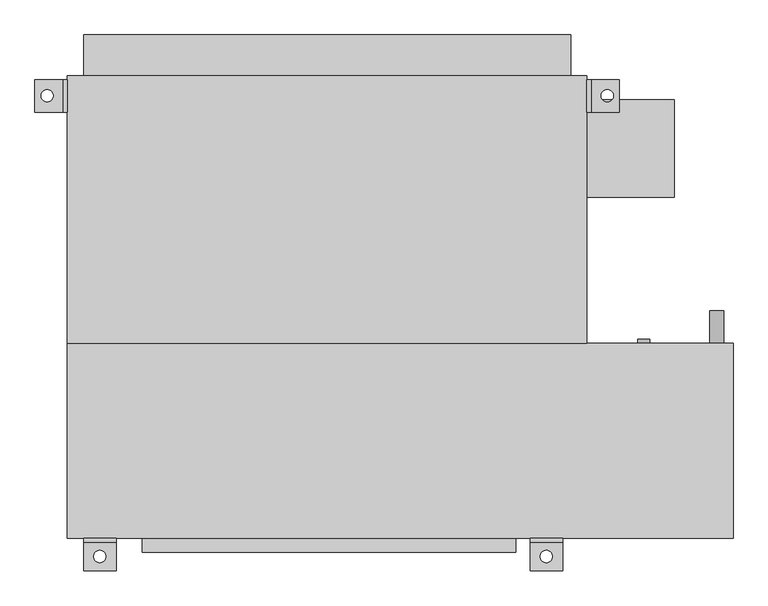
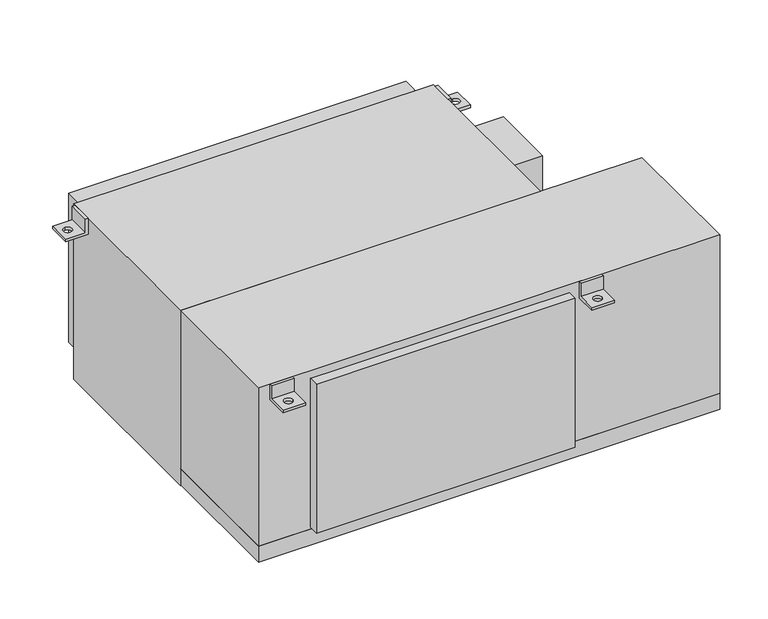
"""IFC4 building model written with IfcOpenShell, lengths in millimetres: proxy geometry, Concealed_High_Capacity_Horizontal_Fan_Coil_Unit_With_Plenum_-_42DCA_-_CARRIER_-_2-Pipe_Cool-EHeat_ValveEnclosure_RH_2022 : Size 10 - 277v/60Hz/1Ph - 6 Row 7.0kW."""

import ifcopenshell
import ifcopenshell.guid

model = None  # the IFC model being written
_history = None  # IfcOwnerHistory: only IFC2X3 demands one
_inside = {}  # id of a spatial element -> (the spatial element, [elements in it])
_under = {}  # id of a project, library or spatial element -> (it, [spatial elements below it])
_declared = {}  # id of a project -> (the project, [libraries it declares])
_typed = {}  # id of a type object -> (the type object, [elements of that type])
_made_of = {}  # id of a material, layer set ... -> (it, [elements and type objects made of it])


def new_model(schema):
    """Start an empty IFC model of exactly this schema.

    Asked for "IFC4X3", IfcOpenShell would pick the latest addendum, in which some entities
    have other attributes; the version numbers below select the first issue.
    IFC2X3 requires an IfcOwnerHistory on every rooted entity: one is made here for all.
    """
    global model, _history
    if schema == "IFC4X3":
        model = ifcopenshell.file(schema_version=(4, 3, 0, 0))
    else:
        model = ifcopenshell.file(schema=schema)
    _inside.clear()
    _under.clear()
    _declared.clear()
    _typed.clear()
    _made_of.clear()
    _history = None
    if model.schema == "IFC2X3":
        org = make("IfcOrganization", Name="unknown")
        user = make(
            "IfcPersonAndOrganization",
            ThePerson=make("IfcPerson", FamilyName="unknown"),
            TheOrganization=org,
        )
        app = make(
            "IfcApplication",
            ApplicationDeveloper=org,
            Version="unknown",
            ApplicationFullName="unknown",
            ApplicationIdentifier="unknown",
        )
        _history = make(
            "IfcOwnerHistory",
            OwningUser=user,
            OwningApplication=app,
            ChangeAction="ADDED",
            CreationDate=0,
        )
    return model


def make(cls, **values):
    """One entity of the class cls with the attributes given. An attribute that is None is left unset."""
    return model.create_entity(
        cls, **{name: value for name, value in values.items() if value is not None}
    )


def rooted(cls, **values):
    """An entity with a GlobalId (a new one), such as an element, a storey or a relation."""
    return make(cls, GlobalId=ifcopenshell.guid.new(), OwnerHistory=_history, **values)


def si_unit(unit_type, name, prefix=None):
    """IfcSIUnit, for example si_unit("LENGTHUNIT", "METRE", prefix="MILLI")."""
    return make("IfcSIUnit", UnitType=unit_type, Prefix=prefix, Name=name)


def assignment(units):
    """IfcUnitAssignment: the units of a project."""
    return None if units is None else make("IfcUnitAssignment", Units=units)


def point(xyz):
    """IfcCartesianPoint."""
    return None if xyz is None else make("IfcCartesianPoint", Coordinates=xyz)


def direction(xyz):
    """IfcDirection."""
    return None if xyz is None else make("IfcDirection", DirectionRatios=xyz)


def frame(location, z_axis=None, x_axis=None):
    """IfcAxis2Placement3D, a coordinate frame: its origin and axes. An axis left out is left unset."""
    return make(
        "IfcAxis2Placement3D",
        Location=point(location),
        Axis=direction(z_axis),
        RefDirection=direction(x_axis),
    )


def frame_2d(location, x_axis=None):
    """IfcAxis2Placement2D, a coordinate frame in the plane: its origin and x axis."""
    return make(
        "IfcAxis2Placement2D", Location=point(location), RefDirection=direction(x_axis)
    )


def origin():
    """The frame at (0, 0, 0) with its axes left unset."""
    return frame((0.0, 0.0, 0.0))


def place(relative_to, where):
    """IfcLocalPlacement: puts the frame where relative to a parent placement (None: the world)."""
    return make(
        "IfcLocalPlacement", PlacementRelTo=relative_to, RelativePlacement=where
    )


def context(
    kind, dimensions, precision=None, world=None, true_north=None, identifier=None
):
    """IfcGeometricRepresentationContext, for example the 3D "Model" context."""
    return make(
        "IfcGeometricRepresentationContext",
        ContextIdentifier=identifier,
        ContextType=kind,
        CoordinateSpaceDimension=dimensions,
        Precision=precision,
        WorldCoordinateSystem=world,
        TrueNorth=true_north,
    )


def project(units=None, contexts=None):
    """IfcProject with its units and contexts."""
    return rooted(
        "IfcProject",
        Name="project",
        RepresentationContexts=contexts,
        UnitsInContext=assignment(units),
    )


def spatial(cls, under=None, at=None, **own):
    """A site, building, storey or space (cls), placed at a placement, below another one or the project."""
    s = rooted(cls, ObjectPlacement=at, **own)
    if under is not None:
        _under.setdefault(under.id(), (under, []))[1].append(s)
    return s


def polyline(points):
    """IfcPolyline through the points."""
    return make("IfcPolyline", Points=[point(p) for p in points])


def circle_curve(where, radius):
    """IfcCircle in the frame where."""
    return make("IfcCircle", Position=where, Radius=radius)


def trimmed(basis, trim1, trim2, sense, master):
    """IfcTrimmedCurve: the piece of a basis curve between two trims."""
    return make(
        "IfcTrimmedCurve",
        BasisCurve=basis,
        Trim1=trim1,
        Trim2=trim2,
        SenseAgreement=sense,
        MasterRepresentation=master,
    )


def segment(curve, same_sense, transition):
    """IfcCompositeCurveSegment."""
    return make(
        "IfcCompositeCurveSegment",
        Transition=transition,
        SameSense=same_sense,
        ParentCurve=curve,
    )


def composite_curve(segments, self_intersect=None):
    """IfcCompositeCurve: segments joined end to end."""
    return make("IfcCompositeCurve", Segments=segments, SelfIntersect=self_intersect)


def outline(outer, holes=None, kind="AREA"):
    """IfcArbitraryClosedProfileDef: a profile drawn as a closed curve; with holes, ...WithVoids."""
    if holes is None:
        return make("IfcArbitraryClosedProfileDef", ProfileType=kind, OuterCurve=outer)
    return make(
        "IfcArbitraryProfileDefWithVoids",
        ProfileType=kind,
        OuterCurve=outer,
        InnerCurves=holes,
    )


def extrude(swept, where, along, depth):
    """IfcExtrudedAreaSolid: the profile swept, set in the frame where, extruded along a direction by depth."""
    return make(
        "IfcExtrudedAreaSolid",
        SweptArea=swept,
        Position=where,
        ExtrudedDirection=direction(along),
        Depth=depth,
    )


def shape(context_of_items, identifier, shape_type, items):
    """IfcShapeRepresentation: the items that make up one representation, for example the "Body"."""
    return make(
        "IfcShapeRepresentation",
        ContextOfItems=context_of_items,
        RepresentationIdentifier=identifier,
        RepresentationType=shape_type,
        Items=items,
    )


def source(mapping_origin, context_of_items, identifier, shape_type, items):
    """IfcRepresentationMap: a shape defined once, which mapped items show again and again."""
    return make(
        "IfcRepresentationMap",
        MappingOrigin=mapping_origin,
        MappedRepresentation=shape(context_of_items, identifier, shape_type, items),
    )


def transform(
    local_origin,
    x_axis=None,
    y_axis=None,
    z_axis=None,
    scale=None,
    scale2=None,
    scale3=None,
    uniform=True,
):
    """IfcCartesianTransformationOperator3D, or its non-uniform kind. x_axis, y_axis, z_axis: its Axis1, 2, 3."""
    if uniform:
        return make(
            "IfcCartesianTransformationOperator3D",
            Axis1=direction(x_axis),
            Axis2=direction(y_axis),
            LocalOrigin=point(local_origin),
            Scale=scale,
            Axis3=direction(z_axis),
        )
    return make(
        "IfcCartesianTransformationOperator3DnonUniform",
        Axis1=direction(x_axis),
        Axis2=direction(y_axis),
        LocalOrigin=point(local_origin),
        Scale=scale,
        Axis3=direction(z_axis),
        Scale2=scale2,
        Scale3=scale3,
    )


def mapped(mapping_source, mapping_target):
    """IfcMappedItem: shows the shape of a source again, moved by a transform."""
    return make(
        "IfcMappedItem", MappingSource=mapping_source, MappingTarget=mapping_target
    )


def made_of(thing, what):
    """Note that an element or type object is made of a material, layer set ...; save() writes the relation."""
    if what is not None:
        _made_of.setdefault(what.id(), (what, []))[1].append(thing)
    return thing


def element(
    cls,
    number,
    at=None,
    inside=None,
    cuts=None,
    type_object=None,
    material=None,
    context=None,
    identifier="Body",
    shape_type=None,
    held_by="IfcProductDefinitionShape",
    body=None,
    shapes=None,
    **own,
):
    """One element of the class cls, such as IfcWall. Its Tag is "e" and its number.

    at: its placement. inside: the storey or other place that contains it. cuts: it is an
    opening in that element (IfcRelVoidsElement). A single representation is given by context,
    identifier, shape_type and body (its items); several are given by shapes. held_by: the class
    of the entity that holds the representations. save() writes the other relations.
    """
    e = rooted(cls, Tag="e%d" % number, ObjectPlacement=at, **own)
    if body is not None:
        shapes = [shape(context, identifier, shape_type, body)]
    if shapes is not None:
        e.Representation = make(held_by, Representations=shapes)
    if inside is not None:
        _inside.setdefault(inside.id(), (inside, []))[1].append(e)
    if cuts is not None:
        rooted(
            "IfcRelVoidsElement", RelatingBuildingElement=cuts, RelatedOpeningElement=e
        )
    if type_object is not None:
        _typed.setdefault(type_object.id(), (type_object, []))[1].append(e)
    return made_of(e, material)


def aggregate(whole, parts):
    """IfcRelAggregates: a whole, such as a stair, and the parts it consists of."""
    return rooted("IfcRelAggregates", RelatingObject=whole, RelatedObjects=parts)


def save(model, path):
    """Write the relations noted so far, then the file.

    IfcRelAggregates (storeys below a building ...), IfcRelContainedInSpatialStructure (elements
    in a storey), IfcRelDefinesByType, IfcRelAssociatesMaterial and IfcRelDeclares: one each for
    every whole, place, type object, material and project.
    """
    for whole, parts in _under.values():
        aggregate(whole, parts)
    for where, things in _inside.values():
        rooted(
            "IfcRelContainedInSpatialStructure",
            RelatedElements=things,
            RelatingStructure=where,
        )
    for kind, things in _typed.values():
        rooted("IfcRelDefinesByType", RelatedObjects=things, RelatingType=kind)
    for what, things in _made_of.values():
        rooted("IfcRelAssociatesMaterial", RelatedObjects=things, RelatingMaterial=what)
    for by, libraries in _declared.values():
        rooted("IfcRelDeclares", RelatingContext=by, RelatedDefinitions=libraries)
    model.write(path)


def plane_surface(at):
    """IfcPlane: the flat surface through the origin of the frame at, square to its z axis."""
    return make("IfcPlane", Position=at)


def revolved_surface(curve, axis_point, axis_direction):
    """IfcSurfaceOfRevolution: the curve turned about the line through axis_point along axis_direction."""
    return make(
        "IfcSurfaceOfRevolution",
        SweptCurve=make("IfcArbitraryOpenProfileDef", ProfileType="CURVE", Curve=curve),
        AxisPosition=make("IfcAxis1Placement", Location=point(axis_point), Axis=direction(axis_direction)),
    )


def advanced_brep(points, edges, surfaces, faces):
    """IfcAdvancedBrep: a solid bounded by faces that lie on surfaces and meet in shared edges.

    An edge is (start, end): straight between two places in points (the first is 0);
    or (start, end, curve); or (start, end, curve, False) where it runs against its curve.
    A face is (place in surfaces, loops), or (place, loops, False) where it looks against
    its surface's normal. A loop lists edges by number (the first is 1), with a minus sign
    where the edge is run from its end to its start. The first loop is the outer one.
    """
    corners = [point(p) for p in points]
    vertices = [make("IfcVertexPoint", VertexGeometry=c) for c in corners]
    made = []
    for start, end, *more in edges:
        made.append(
            make(
                "IfcEdgeCurve",
                EdgeStart=vertices[start],
                EdgeEnd=vertices[end],
                EdgeGeometry=more[0] if more else make("IfcPolyline", Points=[corners[start], corners[end]]),
                SameSense=more[1] if len(more) > 1 else True,
            )
        )
    hull = []
    for where, loops, *sense in faces:
        bounds = []
        for j, loop in enumerate(loops):
            ring = [make("IfcOrientedEdge", EdgeElement=made[abs(k) - 1], Orientation=k > 0) for k in loop]
            bounds.append(
                make(
                    "IfcFaceOuterBound" if j == 0 else "IfcFaceBound",
                    Bound=make("IfcEdgeLoop", EdgeList=ring),
                    Orientation=True,
                )
            )
        hull.append(make("IfcAdvancedFace", Bounds=bounds, FaceSurface=surfaces[where], SameSense=sense[0] if sense else True))
    return make("IfcAdvancedBrep", Outer=make("IfcClosedShell", CfsFaces=hull))


def mechanical_equipment_628c5d06(model_context):
    return source(origin(), model_context, "Body", "SolidModel", [
        advanced_brep(
        [(520.7, -390.525, 0.0), (520.7, -396.875, 0.0), (520.7, -396.875, -31.75), (520.7, -441.325, -31.75), (520.7, -441.325, -38.1), (520.7, -390.525, -38.1), (469.9, -390.525, 0.0), (469.9, -390.525, -38.1), (469.9, -441.325, -38.1), (469.9, -441.325, -31.75), (469.9, -396.875, -31.75), (469.9, -396.875, 0.0), (485.775, -419.1, -31.75), (504.825, -419.1, -31.75), (504.825, -419.1, -38.1), (485.775, -419.1, -38.1)],
        [
            (0, 1),
            (1, 2),
            (2, 3),
            (3, 4),
            (4, 5),
            (5, 0),
            (6, 7),
            (7, 8),
            (8, 9),
            (9, 10),
            (10, 11),
            (11, 6),
            (0, 6),
            (11, 1),
            (10, 2),
            (9, 3),
            (12, 13, circle_curve(frame((495.3, -419.1, -31.75), z_axis=(0.0, 0.0, -1.0), x_axis=(1.0, 0.0, 0.0)), 9.525)),
            (13, 12, circle_curve(frame((495.3, -419.1, -31.75), z_axis=(0.0, 0.0, -1.0), x_axis=(1.0, 0.0, 0.0)), 9.525)),
            (8, 4),
            (7, 5),
            (14, 15, circle_curve(frame((495.3, -419.1, -38.1), z_axis=(0.0, 0.0, 1.0), x_axis=(1.0, 0.0, 0.0)), 9.525)),
            (15, 14, circle_curve(frame((495.3, -419.1, -38.1), z_axis=(0.0, 0.0, 1.0), x_axis=(1.0, 0.0, 0.0)), 9.525)),
            (12, 15),
            (14, 13),
        ],
        [
            plane_surface(frame((520.7, -396.875, 0.0), z_axis=(1.0, 0.0, 0.0), x_axis=(0.0, -1.0, 0.0))),
            plane_surface(frame((469.9, -396.875, 0.0), z_axis=(-1.0, 0.0, 0.0), x_axis=(0.0, 1.0, 0.0))),
            plane_surface(frame((520.7, -390.525, 0.0), z_axis=(0.0, 0.0, 1.0), x_axis=(-1.0, 0.0, 0.0))),
            plane_surface(frame((520.7, -396.875, 0.0), z_axis=(0.0, -1.0, 0.0), x_axis=(-1.0, 0.0, 0.0))),
            plane_surface(frame((520.7, -396.875, -31.75), z_axis=(0.0, 0.0, 1.0), x_axis=(-1.0, 0.0, 0.0))),
            plane_surface(frame((520.7, -441.325, -31.75), z_axis=(0.0, -1.0, 0.0), x_axis=(-1.0, 0.0, 0.0))),
            plane_surface(frame((520.7, -441.325, -38.1), z_axis=(0.0, 0.0, -1.0), x_axis=(-1.0, 0.0, 0.0))),
            plane_surface(frame((520.7, -390.525, -38.1), z_axis=(0.0, 1.0, 0.0), x_axis=(-1.0, 0.0, 0.0))),
            revolved_surface(polyline([(504.825, -419.1, -38.1), (504.825, -419.1, -31.75)]), (495.3, -419.1, -31.75), (0.0, 0.0, -1.0)),
        ],
        [
            (0, [[1, 2, 3, 4, 5, 6]]),
            (1, [[7, 8, 9, 10, 11, 12]]),
            (2, [[-1, 13, -12, 14]]),
            (3, [[-2, -14, -11, 15]]),
            (4, [[-3, -15, -10, 16], [17, 18]]),
            (5, [[-4, -16, -9, 19]]),
            (6, [[-5, -19, -8, 20], [21, 22]]),
            (7, [[-6, -20, -7, -13]]),
            (8, [[23, -21, 24, -17]]),
            (8, [[-23, -18, -24, -22]]),
        ],
    ),
        advanced_brep(
        [(-177.8, -390.525, -38.1), (-177.8, -390.525, 0.0), (-177.8, -396.875, 0.0), (-177.8, -396.875, -31.75), (-177.8, -441.325, -31.75), (-177.8, -441.325, -38.1), (-228.6, -390.525, -38.1), (-228.6, -441.325, -38.1), (-228.6, -441.325, -31.75), (-228.6, -396.875, -31.75), (-228.6, -396.875, 0.0), (-228.6, -390.525, 0.0), (-212.725, -419.1, -31.75), (-193.675, -419.1, -31.75), (-193.675, -419.1, -38.1), (-212.725, -419.1, -38.1)],
        [
            (0, 1),
            (1, 2),
            (2, 3),
            (3, 4),
            (4, 5),
            (5, 0),
            (6, 7),
            (7, 8),
            (8, 9),
            (9, 10),
            (10, 11),
            (11, 6),
            (0, 6),
            (11, 1),
            (10, 2),
            (9, 3),
            (8, 4),
            (12, 13, circle_curve(frame((-203.2, -419.1, -31.75), z_axis=(0.0, 0.0, -1.0), x_axis=(1.0, 0.0, 0.0)), 9.525)),
            (13, 12, circle_curve(frame((-203.2, -419.1, -31.75), z_axis=(0.0, 0.0, -1.0), x_axis=(1.0, 0.0, 0.0)), 9.525)),
            (7, 5),
            (14, 15, circle_curve(frame((-203.2, -419.1, -38.1), z_axis=(0.0, 0.0, 1.0), x_axis=(1.0, 0.0, 0.0)), 9.525)),
            (15, 14, circle_curve(frame((-203.2, -419.1, -38.1), z_axis=(0.0, 0.0, 1.0), x_axis=(1.0, 0.0, 0.0)), 9.525)),
            (12, 15),
            (14, 13),
        ],
        [
            plane_surface(frame((-177.8, -390.525, -38.1), z_axis=(1.0, 0.0, 0.0), x_axis=(0.0, 0.0, 1.0))),
            plane_surface(frame((-228.6, -390.525, -38.1), z_axis=(-1.0, 0.0, 0.0), x_axis=(0.0, 0.0, -1.0))),
            plane_surface(frame((-177.8, -390.525, -38.1), z_axis=(0.0, 1.0, 0.0), x_axis=(-1.0, 0.0, 0.0))),
            plane_surface(frame((-177.8, -390.525, 0.0), z_axis=(0.0, 0.0, 1.0), x_axis=(-1.0, 0.0, 0.0))),
            plane_surface(frame((-177.8, -396.875, 0.0), z_axis=(0.0, -1.0, 0.0), x_axis=(-1.0, 0.0, 0.0))),
            plane_surface(frame((-177.8, -396.875, -31.75), z_axis=(0.0, 0.0, 1.0), x_axis=(-1.0, 0.0, 0.0))),
            plane_surface(frame((-177.8, -441.325, -31.75), z_axis=(0.0, -1.0, 0.0), x_axis=(-1.0, 0.0, 0.0))),
            plane_surface(frame((-177.8, -441.325, -38.1), z_axis=(0.0, 0.0, -1.0), x_axis=(-1.0, 0.0, 0.0))),
            revolved_surface(polyline([(-193.67499999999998, -419.1, -38.1), (-193.67499999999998, -419.1, -31.75)]), (-203.2, -419.1, -31.75), (0.0, 0.0, -1.0)),
        ],
        [
            (0, [[1, 2, 3, 4, 5, 6]]),
            (1, [[7, 8, 9, 10, 11, 12]]),
            (2, [[-1, 13, -12, 14]]),
            (3, [[-2, -14, -11, 15]]),
            (4, [[-3, -15, -10, 16]]),
            (5, [[-4, -16, -9, 17], [18, 19]]),
            (6, [[-5, -17, -8, 20]]),
            (7, [[-6, -20, -7, -13], [21, 22]]),
            (8, [[23, -21, 24, -18]]),
            (8, [[-23, -19, -24, -22]]),
        ],
    ),
        extrude(outline(composite_curve([segment(trimmed(circle_curve(frame_2d((-400.05, 762.0)), 11.1125), [point((-400.05, 750.8875))], [point((-400.05, 773.1125))], False, "CARTESIAN"), True, "CONTINUOUS"), segment(trimmed(circle_curve(frame_2d((-400.05, 762.0)), 11.1125), [point((-400.05, 773.1125))], [point((-400.05, 750.8875))], False, "CARTESIAN"), True, "CONTINUOUS")], self_intersect=False)), frame((0.0, -85.725, 0.0), z_axis=(0.0, 1.0, 0.0), x_axis=(0.0, 0.0, 1.0)), (0.0, 0.0, 1.0), 50.8),
        extrude(outline(composite_curve([segment(trimmed(circle_curve(frame_2d((-44.45, 647.7)), 9.525), [point((-44.45, 638.175))], [point((-44.45, 657.225))], False, "CARTESIAN"), True, "CONTINUOUS"), segment(trimmed(circle_curve(frame_2d((-44.45, 647.7)), 9.525), [point((-44.45, 657.225))], [point((-44.45, 638.175))], False, "CARTESIAN"), True, "CONTINUOUS")], self_intersect=False)), frame((0.0, -85.725, 0.0), z_axis=(0.0, 1.0, 0.0), x_axis=(0.0, 0.0, 1.0)), (0.0, 0.0, 1.0), 6.35),
        extrude(outline(composite_curve([segment(trimmed(circle_curve(frame_2d((-276.225, 647.7)), 9.525), [point((-276.225, 638.175))], [point((-276.225, 657.225))], False, "CARTESIAN"), True, "CONTINUOUS"), segment(trimmed(circle_curve(frame_2d((-276.225, 647.7)), 9.525), [point((-276.225, 657.225))], [point((-276.225, 638.175))], False, "CARTESIAN"), True, "CONTINUOUS")], self_intersect=False)), frame((0.0, -85.725, 0.0), z_axis=(0.0, 1.0, 0.0), x_axis=(0.0, 0.0, 1.0)), (0.0, 0.0, 1.0), 6.35),
        advanced_brep(
        [(-254.0, 327.025, -38.1), (-304.8, 327.025, -38.1), (-304.8, 327.025, -31.75), (-260.35, 327.025, -31.75), (-260.35, 327.025, 0.0), (-254.0, 327.025, 0.0), (-254.0, 276.225, -38.1), (-254.0, 276.225, 0.0), (-260.35, 276.225, 0.0), (-260.35, 276.225, -31.75), (-304.8, 276.225, -31.75), (-304.8, 276.225, -38.1), (-285.75, 292.1, -38.1), (-285.75, 311.15, -38.1), (-285.75, 311.15, -31.75), (-285.75, 292.1, -31.75)],
        [
            (0, 1),
            (1, 2),
            (2, 3),
            (3, 4),
            (4, 5),
            (5, 0),
            (6, 7),
            (7, 8),
            (8, 9),
            (9, 10),
            (10, 11),
            (11, 6),
            (0, 6),
            (11, 1),
            (12, 13, circle_curve(frame((-285.75, 301.625, -38.1), z_axis=(0.0, 0.0, 1.0), x_axis=(0.0, -1.0, 0.0)), 9.525)),
            (13, 12, circle_curve(frame((-285.75, 301.625, -38.1), z_axis=(0.0, 0.0, 1.0), x_axis=(0.0, -1.0, 0.0)), 9.525)),
            (10, 2),
            (9, 3),
            (14, 15, circle_curve(frame((-285.75, 301.625, -31.75), z_axis=(0.0, 0.0, -1.0), x_axis=(0.0, -1.0, 0.0)), 9.525)),
            (15, 14, circle_curve(frame((-285.75, 301.625, -31.75), z_axis=(0.0, 0.0, -1.0), x_axis=(0.0, -1.0, 0.0)), 9.525)),
            (8, 4),
            (7, 5),
            (14, 13),
            (12, 15),
        ],
        [
            plane_surface(frame((-254.0, 327.025, -38.1), z_axis=(0.0, 1.0, 0.0), x_axis=(-1.0, 0.0, 0.0))),
            plane_surface(frame((-254.0, 276.225, -38.1), z_axis=(0.0, -1.0, 0.0), x_axis=(1.0, 0.0, 0.0))),
            plane_surface(frame((-254.0, 327.025, -38.1), z_axis=(0.0, 0.0, -1.0), x_axis=(0.0, -1.0, 0.0))),
            plane_surface(frame((-304.8, 327.025, -38.1), z_axis=(-1.0, 0.0, 0.0), x_axis=(0.0, -1.0, 0.0))),
            plane_surface(frame((-304.8, 327.025, -31.75), z_axis=(0.0, 0.0, 1.0), x_axis=(0.0, -1.0, 0.0))),
            plane_surface(frame((-260.35, 327.025, -31.75), z_axis=(-1.0, 0.0, 0.0), x_axis=(0.0, -1.0, 0.0))),
            plane_surface(frame((-260.35, 327.025, 0.0), z_axis=(0.0, 0.0, 1.0), x_axis=(0.0, -1.0, 0.0))),
            plane_surface(frame((-254.0, 327.025, 0.0), z_axis=(1.0, 0.0, 0.0), x_axis=(0.0, -1.0, 0.0))),
            revolved_surface(polyline([(-285.75, 292.1, -38.1), (-285.75, 292.1, -31.75)]), (-285.75, 301.625, -31.75), (0.0, 0.0, -1.0)),
        ],
        [
            (0, [[1, 2, 3, 4, 5, 6]]),
            (1, [[7, 8, 9, 10, 11, 12]]),
            (2, [[-1, 13, -12, 14], [15, 16]]),
            (3, [[-2, -14, -11, 17]]),
            (4, [[-3, -17, -10, 18], [19, 20]]),
            (5, [[-4, -18, -9, 21]]),
            (6, [[-5, -21, -8, 22]]),
            (7, [[-6, -22, -7, -13]]),
            (8, [[23, -15, 24, -19]]),
            (8, [[-23, -20, -24, -16]]),
        ],
    ),
        advanced_brep(
        [(558.8, 327.025, -38.1), (558.8, 327.025, 0.0), (565.15, 327.025, 0.0), (565.15, 327.025, -31.75), (609.6, 327.025, -31.75), (609.6, 327.025, -38.1), (558.8, 276.225, -38.1), (609.6, 276.225, -38.1), (609.6, 276.225, -31.75), (565.15, 276.225, -31.75), (565.15, 276.225, 0.0), (558.8, 276.225, 0.0), (590.55, 311.15, -31.75), (590.55, 292.1, -31.75), (590.55, 292.1, -38.1), (590.55, 311.15, -38.1)],
        [
            (0, 1),
            (1, 2),
            (2, 3),
            (3, 4),
            (4, 5),
            (5, 0),
            (6, 7),
            (7, 8),
            (8, 9),
            (9, 10),
            (10, 11),
            (11, 6),
            (0, 6),
            (11, 1),
            (10, 2),
            (9, 3),
            (8, 4),
            (12, 13, circle_curve(frame((590.55, 301.625, -31.75), z_axis=(0.0, 0.0, -1.0), x_axis=(0.0, -1.0, 0.0)), 9.525)),
            (13, 12, circle_curve(frame((590.55, 301.625, -31.75), z_axis=(0.0, 0.0, -1.0), x_axis=(0.0, -1.0, 0.0)), 9.525)),
            (7, 5),
            (14, 15, circle_curve(frame((590.55, 301.625, -38.1), z_axis=(0.0, 0.0, 1.0), x_axis=(0.0, -1.0, 0.0)), 9.525)),
            (15, 14, circle_curve(frame((590.55, 301.625, -38.1), z_axis=(0.0, 0.0, 1.0), x_axis=(0.0, -1.0, 0.0)), 9.525)),
            (12, 15),
            (14, 13),
        ],
        [
            plane_surface(frame((-254.0, 327.025, -38.1), z_axis=(0.0, 1.0, 0.0), x_axis=(-1.0, 0.0, 0.0))),
            plane_surface(frame((-254.0, 276.225, -38.1), z_axis=(0.0, -1.0, 0.0), x_axis=(1.0, 0.0, 0.0))),
            plane_surface(frame((558.8, 327.025, -38.1), z_axis=(-1.0, 0.0, 0.0), x_axis=(0.0, -1.0, 0.0))),
            plane_surface(frame((558.8, 327.025, 0.0), z_axis=(0.0, 0.0, 1.0), x_axis=(0.0, -1.0, 0.0))),
            plane_surface(frame((565.15, 327.025, 0.0), z_axis=(1.0, 0.0, 0.0), x_axis=(0.0, -1.0, 0.0))),
            plane_surface(frame((565.15, 327.025, -31.75), z_axis=(0.0, 0.0, 1.0), x_axis=(0.0, -1.0, 0.0))),
            plane_surface(frame((609.6, 327.025, -31.75), z_axis=(1.0, 0.0, 0.0), x_axis=(0.0, -1.0, 0.0))),
            plane_surface(frame((609.6, 327.025, -38.1), z_axis=(0.0, 0.0, -1.0), x_axis=(0.0, -1.0, 0.0))),
            revolved_surface(polyline([(590.55, 292.1, -38.1), (590.55, 292.1, -31.75)]), (590.55, 301.625, -31.75), (0.0, 0.0, -1.0)),
        ],
        [
            (0, [[1, 2, 3, 4, 5, 6]]),
            (1, [[7, 8, 9, 10, 11, 12]]),
            (2, [[-1, 13, -12, 14]]),
            (3, [[-2, -14, -11, 15]]),
            (4, [[-3, -15, -10, 16]]),
            (5, [[-4, -16, -9, 17], [18, 19]]),
            (6, [[-5, -17, -8, 20]]),
            (7, [[-6, -20, -7, -13], [21, 22]]),
            (8, [[23, -21, 24, -18]]),
            (8, [[-23, -19, -24, -22]]),
        ],
    ),
        extrude(outline(polyline([(-228.6, 396.875), (533.4, 396.875), (533.4, 333.375), (-228.6, 333.375), (-228.6, 396.875)])), frame((0.0, 0.0, -377.825), z_axis=(0.0, 0.0, 1.0), x_axis=(1.0, 0.0, 0.0)), (0.0, 0.0, 1.0), 355.6),
        extrude(outline(polyline([(695.325, 295.275), (695.325, 142.875), (558.8, 142.875), (558.8, 295.275), (695.325, 295.275)])), frame((0.0, 0.0, -254.0), z_axis=(0.0, 0.0, 1.0), x_axis=(1.0, 0.0, 0.0)), (0.0, 0.0, 1.0), 152.4),
        extrude(outline(polyline([(447.675, -412.75), (-136.525, -412.75), (-136.525, -390.525), (447.675, -390.525), (447.675, -412.75)])), frame((0.0, 0.0, -374.65), z_axis=(0.0, 0.0, 1.0), x_axis=(1.0, 0.0, 0.0)), (0.0, 0.0, 1.0), 355.6),
        extrude(outline(polyline([(558.8, -85.725), (-254.0, -85.725), (-254.0, 333.375), (558.8, 333.375), (558.8, -85.725)])), frame((0.0, 0.0, -419.1), z_axis=(0.0, 0.0, 1.0), x_axis=(1.0, 0.0, 0.0)), (0.0, 0.0, 1.0), 419.1),
        extrude(outline(polyline([(787.4, -85.725), (787.4, -390.525), (-254.0, -390.525), (-254.0, -85.725), (787.4, -85.725)])), frame((0.0, 0.0, -377.825), z_axis=(0.0, 0.0, 1.0), x_axis=(1.0, 0.0, 0.0)), (0.0, 0.0, 1.0), 377.825),
        extrude(outline(polyline([(787.4, -85.725), (787.4, -390.525), (-254.0, -390.525), (-254.0, -85.725), (787.4, -85.725)])), frame((0.0, 0.0, -415.925), z_axis=(0.0, 0.0, 1.0), x_axis=(1.0, 0.0, 0.0)), (0.0, 0.0, 1.0), 38.1),
    ])


if __name__ == "__main__":
    model = new_model("IFC4")
    model_context = context("Model", 3, world=origin())
    ifc_project = project(units=[si_unit("LENGTHUNIT", "METRE", prefix="MILLI")], contexts=[model_context])
    site = spatial("IfcSite", under=ifc_project)
    building = spatial("IfcBuilding", under=site)
    placement = place(None, origin())
    mechanical_equipment_shape = mechanical_equipment_628c5d06(model_context)
    element("IfcBuildingElementProxy", 1, Name="Concealed_High_Capacity_Horizontal_Fan_Coil_Unit_With_Plenum_-_42DCA_-_CARRIER_-_2-Pipe_Cool-EHeat_ValveEnclosure_RH_2022 : Size 10 - 277v/60Hz/1Ph - 6 Row 7.0kW", ObjectType="Concealed_High_Capacity_Horizontal_Fan_Coil_Unit_With_Plenum_-_42DCA_-_CARRIER_-_2-Pipe_Cool-EHeat_ValveEnclosure_RH_2022 : Size 10 - 277v/60Hz/1Ph - 6 Row 7.0kW", at=placement, inside=building, context=model_context, shape_type="MappedRepresentation", body=[
        mapped(mechanical_equipment_shape, transform((0.0, 0.0, 0.0), x_axis=(1.0, 0.0, 0.0), y_axis=(0.0, 1.0, 0.0), z_axis=(0.0, 0.0, 1.0))),
    ])
    save(model, "model.ifc")
